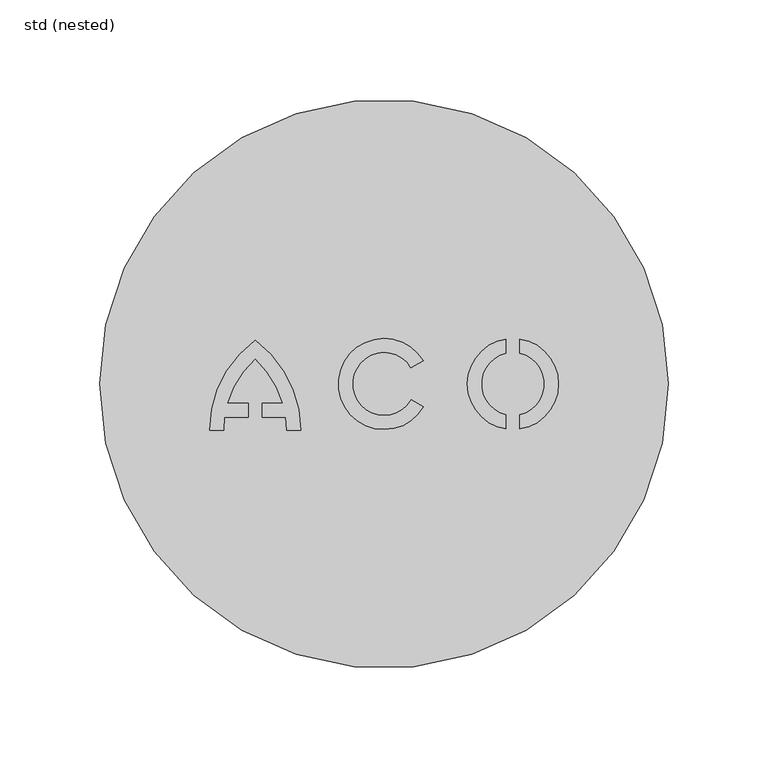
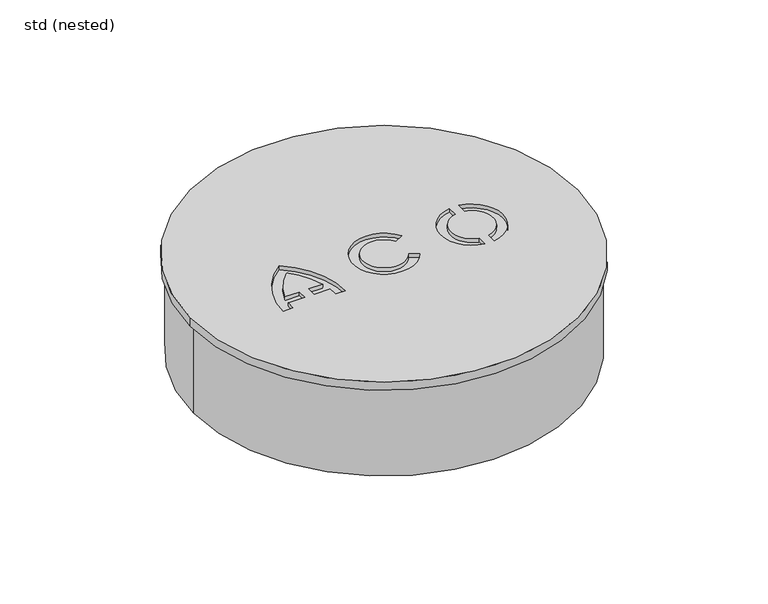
"""IFC4 building model written with IfcOpenShell, lengths in millimetres: sanitary terminal geometry, ZZZ_do not use_PF_ST_WPB_gravel trap cover for Passavant Jet_ACO : std (nested)."""

import ifcopenshell
import ifcopenshell.guid

model = None  # the IFC model being written
_history = None  # IfcOwnerHistory: only IFC2X3 demands one
_inside = {}  # id of a spatial element -> (the spatial element, [elements in it])
_under = {}  # id of a project, library or spatial element -> (it, [spatial elements below it])
_declared = {}  # id of a project -> (the project, [libraries it declares])
_typed = {}  # id of a type object -> (the type object, [elements of that type])
_made_of = {}  # id of a material, layer set ... -> (it, [elements and type objects made of it])


def new_model(schema):
    """Start an empty IFC model of exactly this schema.

    Asked for "IFC4X3", IfcOpenShell would pick the latest addendum, in which some entities
    have other attributes; the version numbers below select the first issue.
    IFC2X3 requires an IfcOwnerHistory on every rooted entity: one is made here for all.
    """
    global model, _history
    if schema == "IFC4X3":
        model = ifcopenshell.file(schema_version=(4, 3, 0, 0))
    else:
        model = ifcopenshell.file(schema=schema)
    _inside.clear()
    _under.clear()
    _declared.clear()
    _typed.clear()
    _made_of.clear()
    _history = None
    if model.schema == "IFC2X3":
        org = make("IfcOrganization", Name="unknown")
        user = make(
            "IfcPersonAndOrganization",
            ThePerson=make("IfcPerson", FamilyName="unknown"),
            TheOrganization=org,
        )
        app = make(
            "IfcApplication",
            ApplicationDeveloper=org,
            Version="unknown",
            ApplicationFullName="unknown",
            ApplicationIdentifier="unknown",
        )
        _history = make(
            "IfcOwnerHistory",
            OwningUser=user,
            OwningApplication=app,
            ChangeAction="ADDED",
            CreationDate=0,
        )
    return model


def make(cls, **values):
    """One entity of the class cls with the attributes given. An attribute that is None is left unset."""
    return model.create_entity(
        cls, **{name: value for name, value in values.items() if value is not None}
    )


def rooted(cls, **values):
    """An entity with a GlobalId (a new one), such as an element, a storey or a relation."""
    return make(cls, GlobalId=ifcopenshell.guid.new(), OwnerHistory=_history, **values)


def si_unit(unit_type, name, prefix=None):
    """IfcSIUnit, for example si_unit("LENGTHUNIT", "METRE", prefix="MILLI")."""
    return make("IfcSIUnit", UnitType=unit_type, Prefix=prefix, Name=name)


def assignment(units):
    """IfcUnitAssignment: the units of a project."""
    return None if units is None else make("IfcUnitAssignment", Units=units)


def point(xyz):
    """IfcCartesianPoint."""
    return None if xyz is None else make("IfcCartesianPoint", Coordinates=xyz)


def direction(xyz):
    """IfcDirection."""
    return None if xyz is None else make("IfcDirection", DirectionRatios=xyz)


def frame(location, z_axis=None, x_axis=None):
    """IfcAxis2Placement3D, a coordinate frame: its origin and axes. An axis left out is left unset."""
    return make(
        "IfcAxis2Placement3D",
        Location=point(location),
        Axis=direction(z_axis),
        RefDirection=direction(x_axis),
    )


def frame_2d(location, x_axis=None):
    """IfcAxis2Placement2D, a coordinate frame in the plane: its origin and x axis."""
    return make(
        "IfcAxis2Placement2D", Location=point(location), RefDirection=direction(x_axis)
    )


def origin():
    """The frame at (0, 0, 0) with its axes left unset."""
    return frame((0.0, 0.0, 0.0))


def origin_with_axes():
    """The frame at (0, 0, 0) with the z axis (0, 0, 1) and the x axis (1, 0, 0) written out."""
    return frame((0.0, 0.0, 0.0), z_axis=(0.0, 0.0, 1.0), x_axis=(1.0, 0.0, 0.0))


def origin_2d():
    """The frame at (0, 0) in the plane with its x axis left unset."""
    return frame_2d((0.0, 0.0))


def place(relative_to, where):
    """IfcLocalPlacement: puts the frame where relative to a parent placement (None: the world)."""
    return make(
        "IfcLocalPlacement", PlacementRelTo=relative_to, RelativePlacement=where
    )


def context(
    kind, dimensions, precision=None, world=None, true_north=None, identifier=None
):
    """IfcGeometricRepresentationContext, for example the 3D "Model" context."""
    return make(
        "IfcGeometricRepresentationContext",
        ContextIdentifier=identifier,
        ContextType=kind,
        CoordinateSpaceDimension=dimensions,
        Precision=precision,
        WorldCoordinateSystem=world,
        TrueNorth=true_north,
    )


def project(units=None, contexts=None):
    """IfcProject with its units and contexts."""
    return rooted(
        "IfcProject",
        Name="project",
        RepresentationContexts=contexts,
        UnitsInContext=assignment(units),
    )


def spatial(cls, under=None, at=None, **own):
    """A site, building, storey or space (cls), placed at a placement, below another one or the project."""
    s = rooted(cls, ObjectPlacement=at, **own)
    if under is not None:
        _under.setdefault(under.id(), (under, []))[1].append(s)
    return s


def polyline(points):
    """IfcPolyline through the points."""
    return make("IfcPolyline", Points=[point(p) for p in points])


def circle_curve(where, radius):
    """IfcCircle in the frame where."""
    return make("IfcCircle", Position=where, Radius=radius)


def trimmed(basis, trim1, trim2, sense, master):
    """IfcTrimmedCurve: the piece of a basis curve between two trims."""
    return make(
        "IfcTrimmedCurve",
        BasisCurve=basis,
        Trim1=trim1,
        Trim2=trim2,
        SenseAgreement=sense,
        MasterRepresentation=master,
    )


def segment(curve, same_sense, transition):
    """IfcCompositeCurveSegment."""
    return make(
        "IfcCompositeCurveSegment",
        Transition=transition,
        SameSense=same_sense,
        ParentCurve=curve,
    )


def composite_curve(segments, self_intersect=None):
    """IfcCompositeCurve: segments joined end to end."""
    return make("IfcCompositeCurve", Segments=segments, SelfIntersect=self_intersect)


def outline(outer, holes=None, kind="AREA"):
    """IfcArbitraryClosedProfileDef: a profile drawn as a closed curve; with holes, ...WithVoids."""
    if holes is None:
        return make("IfcArbitraryClosedProfileDef", ProfileType=kind, OuterCurve=outer)
    return make(
        "IfcArbitraryProfileDefWithVoids",
        ProfileType=kind,
        OuterCurve=outer,
        InnerCurves=holes,
    )


def extrude(swept, where, along, depth):
    """IfcExtrudedAreaSolid: the profile swept, set in the frame where, extruded along a direction by depth."""
    return make(
        "IfcExtrudedAreaSolid",
        SweptArea=swept,
        Position=where,
        ExtrudedDirection=direction(along),
        Depth=depth,
    )


def shape(context_of_items, identifier, shape_type, items):
    """IfcShapeRepresentation: the items that make up one representation, for example the "Body"."""
    return make(
        "IfcShapeRepresentation",
        ContextOfItems=context_of_items,
        RepresentationIdentifier=identifier,
        RepresentationType=shape_type,
        Items=items,
    )


def source(mapping_origin, context_of_items, identifier, shape_type, items):
    """IfcRepresentationMap: a shape defined once, which mapped items show again and again."""
    return make(
        "IfcRepresentationMap",
        MappingOrigin=mapping_origin,
        MappedRepresentation=shape(context_of_items, identifier, shape_type, items),
    )


def transform(
    local_origin,
    x_axis=None,
    y_axis=None,
    z_axis=None,
    scale=None,
    scale2=None,
    scale3=None,
    uniform=True,
):
    """IfcCartesianTransformationOperator3D, or its non-uniform kind. x_axis, y_axis, z_axis: its Axis1, 2, 3."""
    if uniform:
        return make(
            "IfcCartesianTransformationOperator3D",
            Axis1=direction(x_axis),
            Axis2=direction(y_axis),
            LocalOrigin=point(local_origin),
            Scale=scale,
            Axis3=direction(z_axis),
        )
    return make(
        "IfcCartesianTransformationOperator3DnonUniform",
        Axis1=direction(x_axis),
        Axis2=direction(y_axis),
        LocalOrigin=point(local_origin),
        Scale=scale,
        Axis3=direction(z_axis),
        Scale2=scale2,
        Scale3=scale3,
    )


def mapped(mapping_source, mapping_target):
    """IfcMappedItem: shows the shape of a source again, moved by a transform."""
    return make(
        "IfcMappedItem", MappingSource=mapping_source, MappingTarget=mapping_target
    )


def made_of(thing, what):
    """Note that an element or type object is made of a material, layer set ...; save() writes the relation."""
    if what is not None:
        _made_of.setdefault(what.id(), (what, []))[1].append(thing)
    return thing


def element(
    cls,
    number,
    at=None,
    inside=None,
    cuts=None,
    type_object=None,
    material=None,
    context=None,
    identifier="Body",
    shape_type=None,
    held_by="IfcProductDefinitionShape",
    body=None,
    shapes=None,
    **own,
):
    """One element of the class cls, such as IfcWall. Its Tag is "e" and its number.

    at: its placement. inside: the storey or other place that contains it. cuts: it is an
    opening in that element (IfcRelVoidsElement). A single representation is given by context,
    identifier, shape_type and body (its items); several are given by shapes. held_by: the class
    of the entity that holds the representations. save() writes the other relations.
    """
    e = rooted(cls, Tag="e%d" % number, ObjectPlacement=at, **own)
    if body is not None:
        shapes = [shape(context, identifier, shape_type, body)]
    if shapes is not None:
        e.Representation = make(held_by, Representations=shapes)
    if inside is not None:
        _inside.setdefault(inside.id(), (inside, []))[1].append(e)
    if cuts is not None:
        rooted(
            "IfcRelVoidsElement", RelatingBuildingElement=cuts, RelatedOpeningElement=e
        )
    if type_object is not None:
        _typed.setdefault(type_object.id(), (type_object, []))[1].append(e)
    return made_of(e, material)


def aggregate(whole, parts):
    """IfcRelAggregates: a whole, such as a stair, and the parts it consists of."""
    return rooted("IfcRelAggregates", RelatingObject=whole, RelatedObjects=parts)


def save(model, path):
    """Write the relations noted so far, then the file.

    IfcRelAggregates (storeys below a building ...), IfcRelContainedInSpatialStructure (elements
    in a storey), IfcRelDefinesByType, IfcRelAssociatesMaterial and IfcRelDeclares: one each for
    every whole, place, type object, material and project.
    """
    for whole, parts in _under.values():
        aggregate(whole, parts)
    for where, things in _inside.values():
        rooted(
            "IfcRelContainedInSpatialStructure",
            RelatedElements=things,
            RelatingStructure=where,
        )
    for kind, things in _typed.values():
        rooted("IfcRelDefinesByType", RelatedObjects=things, RelatingType=kind)
    for what, things in _made_of.values():
        rooted("IfcRelAssociatesMaterial", RelatedObjects=things, RelatingMaterial=what)
    for by, libraries in _declared.values():
        rooted("IfcRelDeclares", RelatingContext=by, RelatedDefinitions=libraries)
    model.write(path)


def plane_surface(at):
    """IfcPlane: the flat surface through the origin of the frame at, square to its z axis."""
    return make("IfcPlane", Position=at)


def cylinder_surface(at, radius):
    """IfcCylindricalSurface: all points at the distance radius from the z axis of the frame at."""
    return make("IfcCylindricalSurface", Position=at, Radius=radius)


def revolved_surface(curve, axis_point, axis_direction):
    """IfcSurfaceOfRevolution: the curve turned about the line through axis_point along axis_direction."""
    return make(
        "IfcSurfaceOfRevolution",
        SweptCurve=make("IfcArbitraryOpenProfileDef", ProfileType="CURVE", Curve=curve),
        AxisPosition=make("IfcAxis1Placement", Location=point(axis_point), Axis=direction(axis_direction)),
    )


def advanced_brep(points, edges, surfaces, faces):
    """IfcAdvancedBrep: a solid bounded by faces that lie on surfaces and meet in shared edges.

    An edge is (start, end): straight between two places in points (the first is 0);
    or (start, end, curve); or (start, end, curve, False) where it runs against its curve.
    A face is (place in surfaces, loops), or (place, loops, False) where it looks against
    its surface's normal. A loop lists edges by number (the first is 1), with a minus sign
    where the edge is run from its end to its start. The first loop is the outer one.
    """
    corners = [point(p) for p in points]
    vertices = [make("IfcVertexPoint", VertexGeometry=c) for c in corners]
    made = []
    for start, end, *more in edges:
        made.append(
            make(
                "IfcEdgeCurve",
                EdgeStart=vertices[start],
                EdgeEnd=vertices[end],
                EdgeGeometry=more[0] if more else make("IfcPolyline", Points=[corners[start], corners[end]]),
                SameSense=more[1] if len(more) > 1 else True,
            )
        )
    hull = []
    for where, loops, *sense in faces:
        bounds = []
        for j, loop in enumerate(loops):
            ring = [make("IfcOrientedEdge", EdgeElement=made[abs(k) - 1], Orientation=k > 0) for k in loop]
            bounds.append(
                make(
                    "IfcFaceOuterBound" if j == 0 else "IfcFaceBound",
                    Bound=make("IfcEdgeLoop", EdgeList=ring),
                    Orientation=True,
                )
            )
        hull.append(make("IfcAdvancedFace", Bounds=bounds, FaceSurface=surfaces[where], SameSense=sense[0] if sense else True))
    return make("IfcAdvancedBrep", Outer=make("IfcClosedShell", CfsFaces=hull))


def std_nested_9174bdc3(model_context):
    return source(origin(), model_context, "Body", "SolidModel", [
        advanced_brep(
        [(-142.5, 0.0, 75.0), (142.5, 0.0, 75.0), (-50.7692668, -9.7705488, 75.0), (-64.6450624, 12.7253526, 75.0), (-78.5208579, -9.7705488, 75.0), (-68.1450624, -9.7705488, 75.0), (-68.1450624, -16.7905488, 75.0), (-79.9976473, -16.7905488, 75.0), (-80.4394386, -23.1220675, 75.0), (-87.4595165, -23.1220675, 75.0), (-64.6450624, 21.8194512, 75.0), (-41.8306082, -23.1220675, 75.0), (-48.8506862, -23.1220675, 75.0), (-49.2924774, -16.7905488, 75.0), (-61.1450624, -16.7905488, 75.0), (-61.1450624, -9.7705488, 75.0), (19.6112413, 11.6586208, 75.0), (13.5310284, 8.1482082, 75.0), (13.6788713, -7.8975, 75.0), (19.7583696, -11.4075, 75.0), (68.1450624, -22.5449379, 75.0), (68.1450624, -15.4023383, 75.0), (68.1450624, 15.4023383, 75.0), (68.1450624, 22.5449379, 75.0), (61.1450624, -22.5449379, 75.0), (61.1450624, 22.5449379, 75.0), (61.1450624, 15.4023383, 75.0), (61.1450624, -15.4023383, 75.0), (-142.5, 0.0, 68.5), (142.5, 0.0, 68.5), (-64.6450624, 12.7253526, 72.0), (-50.7692668, -9.7705488, 72.0), (-61.1450624, -9.7705488, 72.0), (-61.1450624, -16.7905488, 72.0), (-49.2924774, -16.7905488, 72.0), (-48.8506862, -23.1220675, 72.0), (-41.8306082, -23.1220675, 72.0), (-64.6450624, 21.8194512, 72.0), (-87.4595165, -23.1220675, 72.0), (-80.4394386, -23.1220675, 72.0), (-79.9976473, -16.7905488, 72.0), (-68.1450624, -16.7905488, 72.0), (-68.1450624, -9.7705488, 72.0), (-78.5208579, -9.7705488, 72.0), (13.5310284, 8.1482082, 72.0), (19.6112413, 11.6586208, 72.0), (19.7583696, -11.4075, 72.0), (13.6788713, -7.8975, 72.0), (68.1450624, -15.4023383, 72.0), (68.1450624, -22.5449379, 72.0), (68.1450624, 22.5449379, 72.0), (68.1450624, 15.4023383, 72.0), (61.1450624, 22.5449379, 72.0), (61.1450624, -22.5449379, 72.0), (61.1450624, -15.4023383, 72.0), (61.1450624, 15.4023383, 72.0)],
        [
            (0, 1, circle_curve(frame((0.0, 0.0, 75.0), z_axis=(0.0, 0.0, 1.0), x_axis=(1.0, 0.0, 0.0)), 142.5)),
            (1, 0, circle_curve(frame((0.0, 0.0, 75.0), z_axis=(0.0, 0.0, 1.0), x_axis=(1.0, 0.0, 0.0)), 142.5)),
            (2, 3, circle_curve(frame((-97.9900624, -23.3696689, 75.0), z_axis=(0.0, 0.0, 1.0), x_axis=(-1.0, 0.0, 0.0)), 49.14)),
            (3, 4, circle_curve(frame((-31.3000624, -23.3696689, 75.0), z_axis=(0.0, 0.0, 1.0), x_axis=(-1.0, 0.0, 0.0)), 49.14)),
            (4, 5),
            (5, 6),
            (6, 7),
            (7, 8, circle_curve(frame((-31.3000624, -23.3696689, 75.0), z_axis=(0.0, 0.0, 1.0), x_axis=(-1.0, 0.0, 0.0)), 49.14)),
            (8, 9),
            (9, 10, circle_curve(frame((-31.3000624, -23.3696689, 75.0), z_axis=(0.0, 0.0, -1.0), x_axis=(-1.0, 0.0, 0.0)), 56.16)),
            (10, 11, circle_curve(frame((-97.9900624, -23.3696689, 75.0), z_axis=(0.0, 0.0, -1.0), x_axis=(-1.0, 0.0, 0.0)), 56.16)),
            (11, 12),
            (12, 13, circle_curve(frame((-97.9900624, -23.3696689, 75.0), z_axis=(0.0, 0.0, 1.0), x_axis=(-1.0, 0.0, 0.0)), 49.14)),
            (13, 14),
            (14, 15),
            (15, 2),
            (16, 17),
            (17, 18, circle_curve(frame((0.0, 0.0, 75.0), z_axis=(0.0, 0.0, 1.0), x_axis=(-1.0, 0.0, 0.0)), 15.795)),
            (18, 19),
            (19, 16, circle_curve(frame((0.0, 0.0, 75.0), z_axis=(0.0, 0.0, -1.0), x_axis=(-1.0, 0.0, 0.0)), 22.815)),
            (20, 21),
            (21, 22, circle_curve(frame((64.6450624, 0.0, 75.0), z_axis=(0.0, 0.0, 1.0), x_axis=(-1.0, 0.0, 0.0)), 15.795)),
            (22, 23),
            (23, 20, circle_curve(frame((64.6450624, 0.0, 75.0), z_axis=(0.0, 0.0, -1.0), x_axis=(-1.0, 0.0, 0.0)), 22.815)),
            (24, 25, circle_curve(frame((64.6450624, 0.0, 75.0), z_axis=(0.0, 0.0, -1.0), x_axis=(-1.0, 0.0, 0.0)), 22.815)),
            (25, 26),
            (26, 27, circle_curve(frame((64.6450624, 0.0, 75.0), z_axis=(0.0, 0.0, 1.0), x_axis=(-1.0, 0.0, 0.0)), 15.795)),
            (27, 24),
            (28, 29, circle_curve(frame((0.0, 0.0, 68.5), z_axis=(0.0, 0.0, -1.0), x_axis=(1.0, 0.0, 0.0)), 142.5)),
            (29, 28, circle_curve(frame((0.0, 0.0, 68.5), z_axis=(0.0, 0.0, -1.0), x_axis=(1.0, 0.0, 0.0)), 142.5)),
            (0, 28),
            (29, 1),
            (30, 31, circle_curve(frame((-97.9900624, -23.3696689, 72.0), z_axis=(0.0, 0.0, -1.0), x_axis=(-1.0, 0.0, 0.0)), 49.14)),
            (31, 32),
            (32, 33),
            (33, 34),
            (34, 35, circle_curve(frame((-97.9900624, -23.3696689, 72.0), z_axis=(0.0, 0.0, -1.0), x_axis=(-1.0, 0.0, 0.0)), 49.14)),
            (35, 36),
            (36, 37, circle_curve(frame((-97.9900624, -23.3696689, 72.0), z_axis=(0.0, 0.0, 1.0), x_axis=(-1.0, 0.0, 0.0)), 56.16)),
            (37, 38, circle_curve(frame((-31.3000624, -23.3696689, 72.0), z_axis=(0.0, 0.0, 1.0), x_axis=(-1.0, 0.0, 0.0)), 56.16)),
            (38, 39),
            (39, 40, circle_curve(frame((-31.3000624, -23.3696689, 72.0), z_axis=(0.0, 0.0, -1.0), x_axis=(-1.0, 0.0, 0.0)), 49.14)),
            (40, 41),
            (41, 42),
            (42, 43),
            (43, 30, circle_curve(frame((-31.3000624, -23.3696689, 72.0), z_axis=(0.0, 0.0, -1.0), x_axis=(-1.0, 0.0, 0.0)), 49.14)),
            (44, 45),
            (45, 46, circle_curve(frame((0.0, 0.0, 72.0), z_axis=(0.0, 0.0, 1.0), x_axis=(-1.0, 0.0, 0.0)), 22.815)),
            (46, 47),
            (47, 44, circle_curve(frame((0.0, 0.0, 72.0), z_axis=(0.0, 0.0, -1.0), x_axis=(-1.0, 0.0, 0.0)), 15.795)),
            (48, 49),
            (49, 50, circle_curve(frame((64.6450624, 0.0, 72.0), z_axis=(0.0, 0.0, 1.0), x_axis=(-1.0, 0.0, 0.0)), 22.815)),
            (50, 51),
            (51, 48, circle_curve(frame((64.6450624, 0.0, 72.0), z_axis=(0.0, 0.0, -1.0), x_axis=(-1.0, 0.0, 0.0)), 15.795)),
            (52, 53, circle_curve(frame((64.6450624, 0.0, 72.0), z_axis=(0.0, 0.0, 1.0), x_axis=(-1.0, 0.0, 0.0)), 22.815)),
            (53, 54),
            (54, 55, circle_curve(frame((64.6450624, 0.0, 72.0), z_axis=(0.0, 0.0, -1.0), x_axis=(-1.0, 0.0, 0.0)), 15.795)),
            (55, 52),
            (30, 3),
            (2, 31),
            (15, 32),
            (14, 33),
            (13, 34),
            (12, 35),
            (11, 36),
            (10, 37),
            (9, 38),
            (8, 39),
            (7, 40),
            (6, 41),
            (5, 42),
            (4, 43),
            (44, 17),
            (16, 45),
            (19, 46),
            (18, 47),
            (48, 21),
            (20, 49),
            (23, 50),
            (22, 51),
            (52, 25),
            (24, 53),
            (27, 54),
            (26, 55),
        ],
        [
            plane_surface(frame((142.5, 0.0, 75.0), z_axis=(0.0, 0.0, 1.0), x_axis=(0.0, 1.0, 0.0))),
            plane_surface(frame((142.5, 0.0, 68.5), z_axis=(0.0, 0.0, -1.0), x_axis=(0.0, -1.0, 0.0))),
            cylinder_surface(frame((0.0, 0.0, 68.5), z_axis=(0.0, 0.0, 1.0), x_axis=(1.0, 0.0, 0.0)), 142.5),
            plane_surface(frame((-147.1300624, -23.3696689, 72.0), z_axis=(0.0, 0.0, 1.0), x_axis=(0.0, -1.0, 0.0))),
            cylinder_surface(frame((-97.9900624, -23.3696689, 72.0), z_axis=(0.0, 0.0, -1.0), x_axis=(-1.0, 0.0, 0.0)), 49.14),
            plane_surface(frame((-50.7692668, -9.7705488, 75.0), z_axis=(0.0, -1.0, 0.0), x_axis=(0.0, 0.0, -1.0))),
            plane_surface(frame((-61.1450624, -9.7705488, 75.0), z_axis=(1.0, 0.0, 0.0), x_axis=(0.0, 0.0, -1.0))),
            plane_surface(frame((-61.1450624, -16.7905488, 75.0), z_axis=(0.0, 1.0, 0.0), x_axis=(0.0, 0.0, -1.0))),
            plane_surface(frame((-48.8506862, -23.1220675, 75.0), z_axis=(0.0, 1.0, 0.0), x_axis=(0.0, 0.0, -1.0))),
            revolved_surface(polyline([(-154.1500624, -23.3696689, 75.0), (-154.1500624, -23.3696689, 72.0)]), (-97.9900624, -23.3696689, 72.0), (0.0, 0.0, 1.0)),
            revolved_surface(polyline([(-87.4600624, -23.3696689, 75.0), (-87.4600624, -23.3696689, 72.0)]), (-31.3000624, -23.3696689, 72.0), (0.0, 0.0, 1.0)),
            plane_surface(frame((-87.4595165, -23.1220675, 75.0), z_axis=(0.0, 1.0, 0.0), x_axis=(0.0, 0.0, -1.0))),
            cylinder_surface(frame((-31.3000624, -23.3696689, 72.0), z_axis=(0.0, 0.0, -1.0), x_axis=(-1.0, 0.0, 0.0)), 49.14),
            plane_surface(frame((-79.9976473, -16.7905488, 75.0), z_axis=(1.5024645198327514e-12, 1.0, 0.0), x_axis=(0.0, 0.0, -1.0))),
            plane_surface(frame((-68.1450624, -16.7905488, 75.0), z_axis=(-1.0, 0.0, 0.0), x_axis=(0.0, 0.0, -1.0))),
            plane_surface(frame((-68.1450624, -9.7705488, 75.0), z_axis=(0.0, -1.0, 0.0), x_axis=(0.0, 0.0, -1.0))),
            plane_surface(frame((13.5310284, 8.1482082, 75.0), z_axis=(-0.49999999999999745, 0.8660254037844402, 0.0), x_axis=(0.0, 0.0, -1.0))),
            revolved_surface(polyline([(-22.815, 0.0, 75.0), (-22.815, 0.0, 72.0)]), (0.0, 0.0, 75.0), (0.0, 0.0, 1.0)),
            plane_surface(frame((19.7583696, -11.4075, 75.0), z_axis=(-0.4999999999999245, -0.8660254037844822, 0.0), x_axis=(0.0, 0.0, -1.0))),
            cylinder_surface(frame((0.0, 0.0, 75.0), z_axis=(0.0, 0.0, -1.0), x_axis=(-1.0, 0.0, 0.0)), 15.795),
            plane_surface(frame((68.1450624, -15.4023383, 75.0), z_axis=(1.0, 0.0, 0.0), x_axis=(0.0, 0.0, -1.0))),
            revolved_surface(polyline([(41.8300624, 0.0, 75.0), (41.8300624, 0.0, 72.0)]), (64.6450624, 0.0, 75.0), (0.0, 0.0, 1.0)),
            plane_surface(frame((68.1450624, 22.5449379, 75.0), z_axis=(1.0, 0.0, 0.0), x_axis=(0.0, 0.0, -1.0))),
            cylinder_surface(frame((64.6450624, 0.0, 75.0), z_axis=(0.0, 0.0, -1.0), x_axis=(-1.0, 0.0, 0.0)), 15.795),
            plane_surface(frame((61.1450624, -22.5449379, 75.0), z_axis=(-1.0, 0.0, 0.0), x_axis=(0.0, 0.0, -1.0))),
            plane_surface(frame((61.1450624, 15.4023383, 75.0), z_axis=(-1.0, 0.0, 0.0), x_axis=(0.0, 0.0, -1.0))),
        ],
        [
            (0, [[1, 2], [3, 4, 5, 6, 7, 8, 9, 10, 11, 12, 13, 14, 15, 16], [17, 18, 19, 20], [21, 22, 23, 24], [25, 26, 27, 28]]),
            (1, [[29, 30]]),
            (2, [[-1, 31, -30, 32]]),
            (2, [[-2, -32, -29, -31]]),
            (3, [[33, 34, 35, 36, 37, 38, 39, 40, 41, 42, 43, 44, 45, 46]]),
            (3, [[47, 48, 49, 50]]),
            (3, [[51, 52, 53, 54]]),
            (3, [[55, 56, 57, 58]]),
            (4, [[-33, 59, -3, 60]]),
            (5, [[-34, -60, -16, 61]]),
            (6, [[-35, -61, -15, 62]]),
            (7, [[-36, -62, -14, 63]]),
            (4, [[-37, -63, -13, 64]]),
            (8, [[-38, -64, -12, 65]]),
            (9, [[-39, -65, -11, 66]]),
            (10, [[-40, -66, -10, 67]]),
            (11, [[-41, -67, -9, 68]]),
            (12, [[-42, -68, -8, 69]]),
            (13, [[-43, -69, -7, 70]]),
            (14, [[-44, -70, -6, 71]]),
            (15, [[-45, -71, -5, 72]]),
            (12, [[-46, -72, -4, -59]]),
            (16, [[-47, 73, -17, 74]]),
            (17, [[-48, -74, -20, 75]]),
            (18, [[-49, -75, -19, 76]]),
            (19, [[-50, -76, -18, -73]]),
            (20, [[-51, 77, -21, 78]]),
            (21, [[-52, -78, -24, 79]]),
            (22, [[-53, -79, -23, 80]]),
            (23, [[-54, -80, -22, -77]]),
            (21, [[-55, 81, -25, 82]]),
            (24, [[-56, -82, -28, 83]]),
            (23, [[-57, -83, -27, 84]]),
            (25, [[-58, -84, -26, -81]]),
        ],
    ),
        extrude(outline(composite_curve([segment(trimmed(circle_curve(origin_2d(), 140.0), [point((-140.0, 0.0))], [point((140.0, 0.0))], False, "CARTESIAN"), True, "CONTINUOUS"), segment(trimmed(circle_curve(origin_2d(), 140.0), [point((140.0, 0.0))], [point((-140.0, 0.0))], False, "CARTESIAN"), True, "CONTINUOUS")], self_intersect=False), holes=[composite_curve([segment(trimmed(circle_curve(origin_2d(), 137.5), [point((-137.5, 0.0))], [point((137.5, 0.0))], True, "CARTESIAN"), True, "CONTINUOUS"), segment(trimmed(circle_curve(origin_2d(), 137.5), [point((137.5, 0.0))], [point((-137.5, 0.0))], True, "CARTESIAN"), True, "CONTINUOUS")], self_intersect=False)]), origin_with_axes(), (0.0, 0.0, 1.0), 68.5),
    ])


if __name__ == "__main__":
    model = new_model("IFC4")
    model_context = context("Model", 3, world=origin())
    ifc_project = project(units=[si_unit("LENGTHUNIT", "METRE", prefix="MILLI")], contexts=[model_context])
    site = spatial("IfcSite", under=ifc_project)
    building = spatial("IfcBuilding", under=site)
    placement = place(None, origin())
    std_nested_shape = std_nested_9174bdc3(model_context)
    element("IfcSanitaryTerminal", 1, ObjectType="ZZZ_do not use_PF_ST_WPB_gravel trap cover for Passavant Jet_ACO : std (nested)", at=placement, inside=building, context=model_context, shape_type="MappedRepresentation", body=[
        mapped(std_nested_shape, transform((0.0, 0.0, 0.0), x_axis=(1.0, 0.0, 0.0), y_axis=(0.0, 1.0, 0.0), z_axis=(0.0, 0.0, 1.0))),
    ])
    save(model, "model.ifc")
